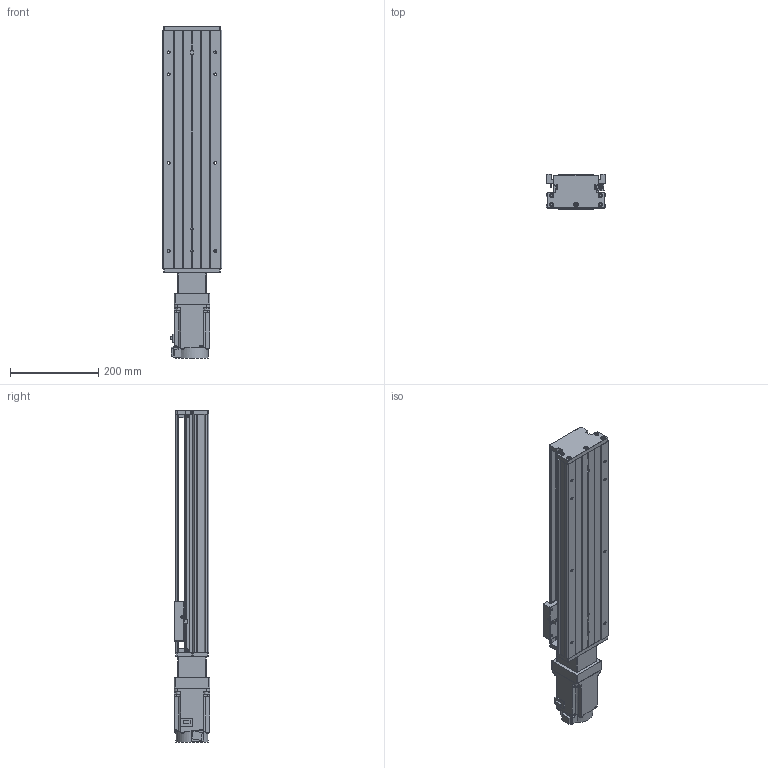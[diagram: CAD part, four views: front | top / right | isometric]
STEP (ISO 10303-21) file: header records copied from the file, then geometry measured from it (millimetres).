
FILE_DESCRIPTION (( 'STEP AP203' ), '1' );
FILE_NAME ('KTH130-400-BC-M75-C4.step', '2023-06-30T04:17:26', ( '微软用户' ), ( '微软中国' ), 'SwSTEP 2.0', 'SolidWorks 2020', '' );
FILE_SCHEMA (( 'CONFIG_CONTROL_DESIGN' ));
Length unit declared in the file: millimetre
Products named in the file (19): GBT 70.1-M3℅5; hg-kn73j_-s100; GB1155-6X6; GBT77-2000 M3×3; KTH130-400-BC-M75-C4; GBT70.1 M5℅16; す晦芛蹟隊 M3℅5; GBT 70.2-M3¡Á5_M3¡Á6; GBT 70.3-M3℅8; GTH14-001_400; CTHA60-017; CTHA86-006-1_M75; KTH130-002_KTH130-002; EE_SX911P_R; CTHA86-013; KTH130-004; CTHA60-016; CTHA86-027-1; KTH130-005
Assembly tree (52 placements, depth 2):
  KTH130-400-BC-M75-C4
    GTH14-001_400
    KTH130-002_KTH130-002
    KTH130-004
    KTH130-005
    GB1155-6X6  x2
    GBT70.1 M5℅16  x10
    GBT 70.2-M3¡Á5_M3¡Á6  x4
    CTHA60-017  x3
    EE_SX911P_R  x3
    CTHA60-016  x2
    GBT 70.1-M3℅5  x6
    GBT77-2000 M3×3  x6
    す晦芛蹟隊 M3℅5  x2
    GBT 70.3-M3℅8  x6
    CTHA86-006-1_M75
    CTHA86-013
    CTHA86-027-1
    hg-kn73j_-s100
Bounding box: 135 x 80.44 x 753.2 mm (x, y, z)
Volume: 4135858.8 mm3; surface area: 615242.1 mm2
Topology: 55 solids, 55 shells, 2250 faces, 5408 edges, 3367 vertices
Faces by surface type: plane 1240, cylinder 614, cone 280, torus 104, sphere 12
Entity records: 39846 total; most frequent: CARTESIAN_POINT 6581, DIRECTION 6551, ORIENTED_EDGE 6100, EDGE_CURVE 3050, AXIS2_PLACEMENT_3D 2273, VECTOR 2005, LINE 2005, VERTEX_POINT 1939
